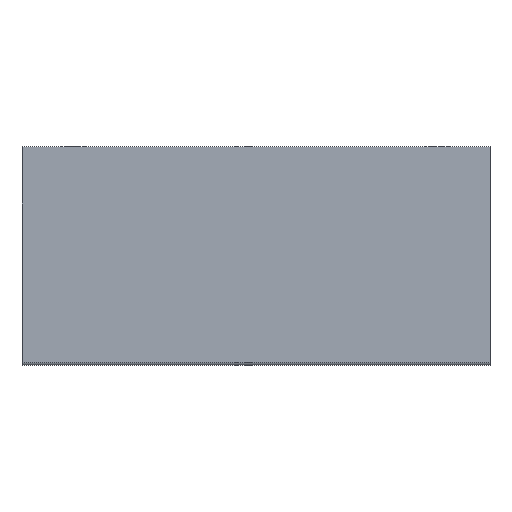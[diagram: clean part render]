
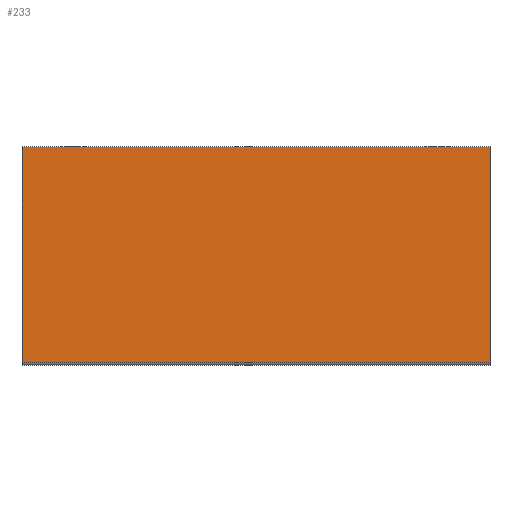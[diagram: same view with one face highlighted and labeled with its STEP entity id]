
A CAD part, top view. The second image highlights one B-rep face of the part: STEP entity #233.
In plain terms, the highlighted planar face has unit normal (0, 0, 1).
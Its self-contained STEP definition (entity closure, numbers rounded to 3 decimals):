
#167 = EDGE_CURVE( '', #199, #247, #371, .T. );
#199 = VERTEX_POINT( '', #411 );
#203 = VERTEX_POINT( '', #416 );
#217 = VERTEX_POINT( '', #432 );
#219 = EDGE_CURVE( '', #247, #217, #434, .T. );
#233 = ADVANCED_FACE( '', ( #448 ), #449, .T. );
#247 = VERTEX_POINT( '', #468 );
#249 = EDGE_CURVE( '', #203, #217, #470, .T. );
#255 = EDGE_CURVE( '', #199, #203, #476, .T. );
#371 = LINE( '', #608, #609 );
#411 = CARTESIAN_POINT( '', ( 80., 0., 20. ) );
#416 = CARTESIAN_POINT( '', ( 80., -41.5, 20. ) );
#432 = CARTESIAN_POINT( '', ( -10., -41.5, 20. ) );
#434 = LINE( '', #683, #684 );
#448 = FACE_OUTER_BOUND( '', #704, .T. );
#449 = PLANE( '', #705 );
#468 = CARTESIAN_POINT( '', ( -10., 0., 20. ) );
#470 = LINE( '', #732, #733 );
#476 = LINE( '', #740, #741 );
#608 = CARTESIAN_POINT( '', ( 80., 0., 20. ) );
#609 = VECTOR( '', #850, 1. );
#683 = CARTESIAN_POINT( '', ( -10., 0., 20. ) );
#684 = VECTOR( '', #948, 1. );
#704 = EDGE_LOOP( '', ( #958, #959, #960, #961 ) );
#705 = AXIS2_PLACEMENT_3D( '', #962, #963, #964 );
#732 = CARTESIAN_POINT( '', ( 80., -41.5, 20. ) );
#733 = VECTOR( '', #998, 1. );
#740 = CARTESIAN_POINT( '', ( 80., 0., 20. ) );
#741 = VECTOR( '', #999, 1. );
#850 = DIRECTION( '', ( -1., 0., 0. ) );
#948 = DIRECTION( '', ( 0., -1., 0. ) );
#958 = ORIENTED_EDGE( '', *, *, #219, .T. );
#959 = ORIENTED_EDGE( '', *, *, #249, .F. );
#960 = ORIENTED_EDGE( '', *, *, #255, .F. );
#961 = ORIENTED_EDGE( '', *, *, #167, .T. );
#962 = CARTESIAN_POINT( '', ( 80., 0., 20. ) );
#963 = DIRECTION( '', ( 0., 0., 1. ) );
#964 = DIRECTION( '', ( 0., 1., 0. ) );
#998 = DIRECTION( '', ( -1., 0., 0. ) );
#999 = DIRECTION( '', ( 0., -1., 0. ) );
